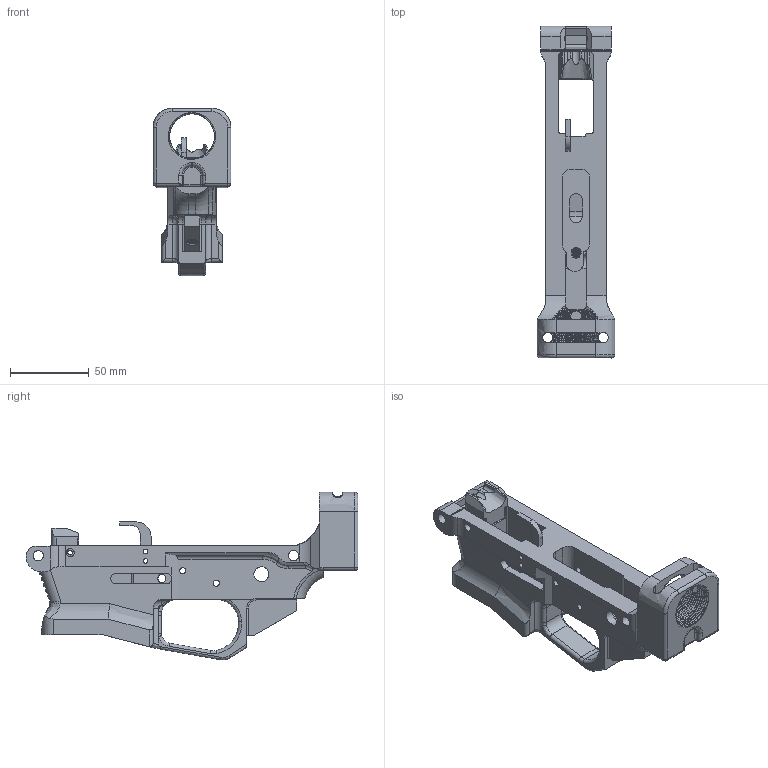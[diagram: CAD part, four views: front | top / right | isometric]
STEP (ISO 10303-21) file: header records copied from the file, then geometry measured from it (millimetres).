
FILE_DESCRIPTION(/* description */ (''),/* implementation_level */ '2;1');
FILE_NAME(/* name */ 'PCC 1.0/AR-9 Colt - Final.step',/* time_stamp */ '2022-03-29T21:35:20-04:00',/* author */ (''),/* organization */ (''),/* preprocessor_version */ 'ST-DEVELOPER v18.1',/* originating_system */ 'Autodesk Translation Framework v10.13.0.1454',/* authorisation */ '');
FILE_SCHEMA (('AUTOMOTIVE_DESIGN { 1 0 10303 214 3 1 1 }'));
Products named in the file (4): AR-9 Colt - Final; Frame (5); Feed Lips (2); Ejector-steel
Assembly tree (3 placements, depth 2):
  AR-9 Colt - Final
    Frame (5)
    Feed Lips (2)
    Ejector-steel
Bounding box: 49.27 x 210.49 x 106.26 mm (x, y, z)
Volume: 209205.8 mm3; surface area: 67436 mm2
Topology: 3 solids, 3 shells, 657 faces, 1863 edges, 1193 vertices
Faces by surface type: cylinder 275, plane 216, bspline 134, torus 20, cone 10, sphere 2
Full cylindrical faces by diameter (mm): 3 x9, 3.175 x1, 3.962 x4, 5 x2, 5.172 x21, 5.182 x1, 6.35 x20, 6.5 x6, 6.75 x1, 7.938 x1, 9.525 x2, 28.47 x9, 30.043 x9
Entity records: 42353 total; most frequent: CARTESIAN_POINT 26461, ORIENTED_EDGE 3704, DIRECTION 2701, EDGE_CURVE 1852, VERTEX_POINT 1193, AXIS2_PLACEMENT_3D 942, LINE 817, VECTOR 817
